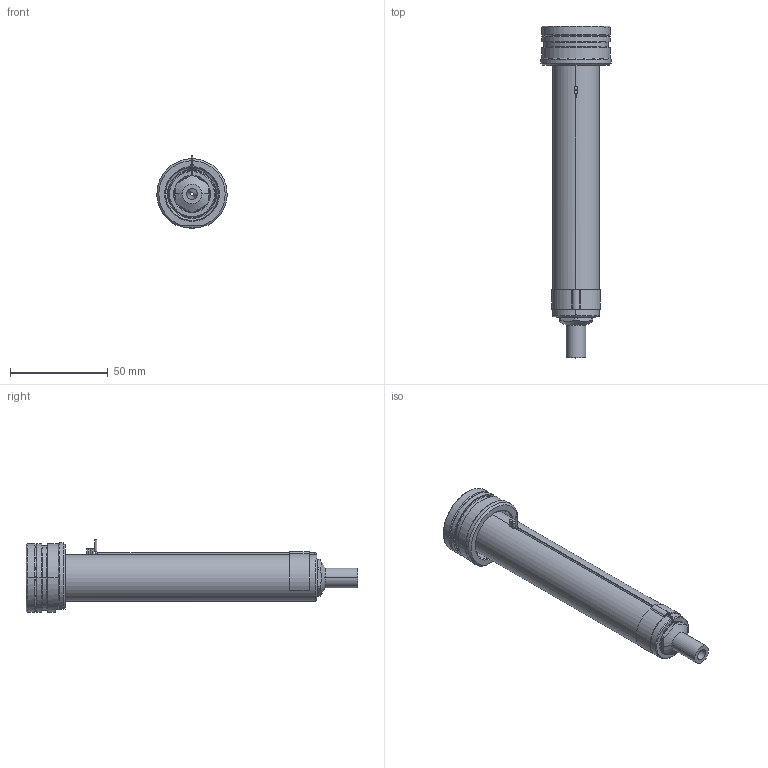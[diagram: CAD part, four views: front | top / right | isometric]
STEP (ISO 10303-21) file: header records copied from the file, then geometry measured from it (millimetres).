
FILE_DESCRIPTION((''),'2;1');
FILE_NAME('EO06_SG_ESG_140_SW','2024-02-19T12:18:59',('sundharh'),(''),'CREO PARAMETRIC BY PTC INC, 2023154','CREO PARAMETRIC BY PTC INC, 2023154','');
FILE_SCHEMA(('CONFIG_CONTROL_DESIGN'));
Length unit declared in the file: millimetre
Products named in the file (1): EO06_SG_ESG_140_SW
Bounding box: 35.93 x 170 x 37 mm (x, y, z)
Volume: 73467.9 mm3; surface area: 20778.9 mm2
Topology: 2 solids, 2 shells, 168 faces, 429 edges, 259 vertices
Faces by surface type: cylinder 68, plane 40, cone 30, torus 21, bspline 6, sphere 3
Entity records: 5792 total; most frequent: CARTESIAN_POINT 1690, DIRECTION 900, ORIENTED_EDGE 838, EDGE_CURVE 419, AXIS2_PLACEMENT_3D 375, VERTEX_POINT 259, CIRCLE 213, EDGE_LOOP 182
